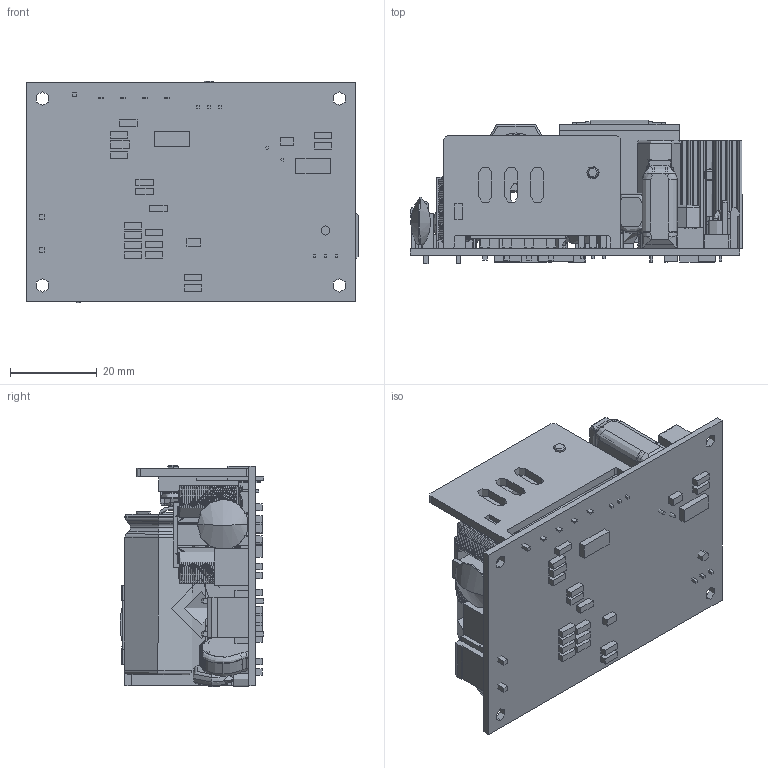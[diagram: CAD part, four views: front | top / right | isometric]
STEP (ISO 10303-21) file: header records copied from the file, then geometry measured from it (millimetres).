
FILE_DESCRIPTION (( 'STEP AP203' ), '1' );
FILE_NAME ('CFM81S_3D.STEP', '2020-06-24T01:16:46', ( 'cincon' ), ( '' ), 'SwSTEP 2.0', 'SolidWorks 2017', '' );
FILE_SCHEMA (( 'CONFIG_CONTROL_DESIGN' ));
Length unit declared in the file: millimetre
Products named in the file (21): CFM81S_3D; 陶瓷電容d8; 2 PIN(3孔)插座示意圖 102,08,29; CFM40M CY1 990210; Electrolitic Capacitor Radial 10x24; VR1; 18x39.5電容; D4; CY(10X16); 電感-雙線圈; 橋式整流器電晶體; CFM81S PCB; 鋁擠型散熱板 H=25; 電晶體10mm(附螺絲); CFM81S散熱片-1070601; CFM81S 4 PIN插座1090130; CY2; ､鎹INA; CFM80M120 電感(CORE); CFM80M 電感(CORE) A 100,01,25; CFM81S 散熱片-1070601
Assembly tree (26 placements, depth 3):
  CFM81S_3D
    CFM81S PCB
    CFM81S 散熱片-1070601
      CFM81S散熱片-1070601
      ､鎹INA
    2 PIN(3孔)插座示意圖 102,08,29
    Electrolitic Capacitor Radial 10x24
    18x39.5電容
    CY(10X16)  x3
    橋式整流器電晶體
    電晶體10mm(附螺絲)  x2
    CY2
    CFM80M 電感(CORE) A 100,01,25
    陶瓷電容d8
    CFM40M CY1 990210  x4
    VR1
    D4
    電感-雙線圈
    鋁擠型散熱板 H=25
    CFM81S 4 PIN插座1090130
    CFM80M120 電感(CORE)
Bounding box: 76.72 x 33.22 x 51.19 mm (x, y, z)
Topology: 35 solids, 1083 shells, 3718 faces, 8183 edges, 4168 vertices
Faces by surface type: cylinder 1364, plane 978, bspline 930, torus 404, cone 38, sphere 4
Full cylindrical faces by diameter (mm): 0.351 x402, 0.585 x7, 14.04 x51
Entity records: 376917 total; most frequent: CARTESIAN_POINT 306356, ORIENTED_EDGE 14783, DIRECTION 13548, EDGE_CURVE 7419, AXIS2_PLACEMENT_3D 5506, VERTEX_POINT 3855, EDGE_LOOP 3630, ADVANCED_FACE 3509
